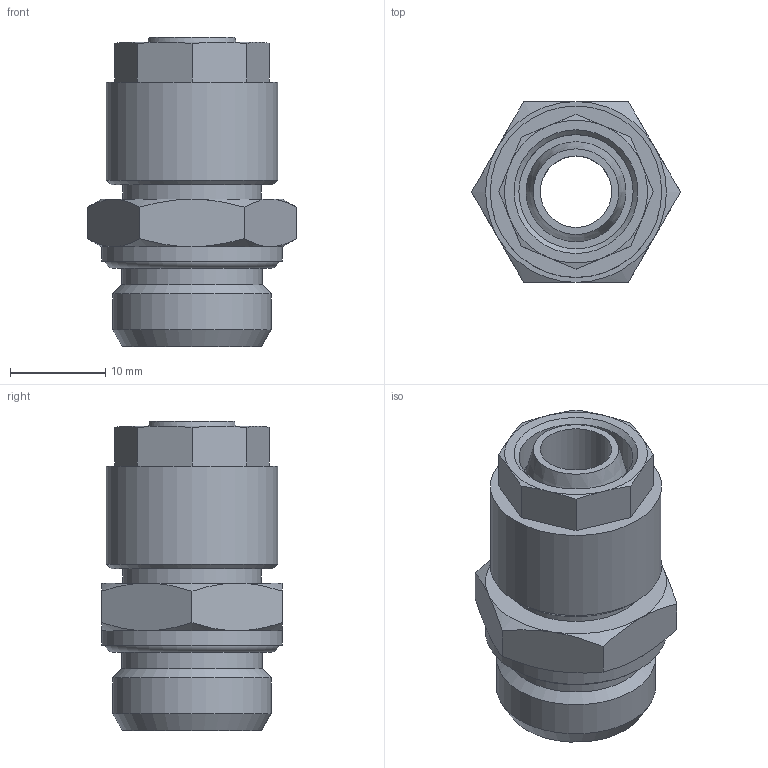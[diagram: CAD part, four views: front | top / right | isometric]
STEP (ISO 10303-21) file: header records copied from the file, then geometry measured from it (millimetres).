
FILE_DESCRIPTION(/* description */ (''),/* implementation_level */ '2;1');
FILE_NAME(/* name */ '10223_301Z_129_38_11.12.2015',/* time_stamp */ '2015-12-11T07:54:33+01:00',/* author */ (''),/* organization */ (''),/* preprocessor_version */ 'ST-DEVELOPER v14',/* originating_system */ 'HiCAD 2013 1802.4 Build 509',/* authorisation */ '');
FILE_SCHEMA (('AUTOMOTIVE_DESIGN { 1 0 10303 214 1 1 1 1 }'));
Length unit declared in the file: millimetre
Products named in the file (4): Root; 10223_Stutzen; 17008; OR 14X1.78
Assembly tree (3 placements, depth 2):
  Root
    10223_Stutzen
    17008
    OR 14X1.78
Bounding box: 21.94 x 19 x 32.5 mm (x, y, z)
Volume: 5274 mm3; surface area: 5028.5 mm2
Topology: 3 solids, 3 shells, 71 faces, 157 edges, 97 vertices
Faces by surface type: cone 32, plane 24, cylinder 11, torus 4
Full cylindrical faces by diameter (mm): 7.5 x1, 9.5 x1, 11 x1, 12 x1, 14.5 x1, 14.73 x1, 14.75 x1, 16 x1, 16.662 x1, 18 x1, 19 x1
Entity records: 2969 total; most frequent: DIRECTION 364, CARTESIAN_POINT 276, PRESENTATION_STYLE_ASSIGNMENT 235, COLOUR_RGB 234, DRAUGHTING_PRE_DEFINED_CURVE_FONT 232, CURVE_STYLE 232, OVER_RIDING_STYLED_ITEM 232, ORIENTED_EDGE 232
